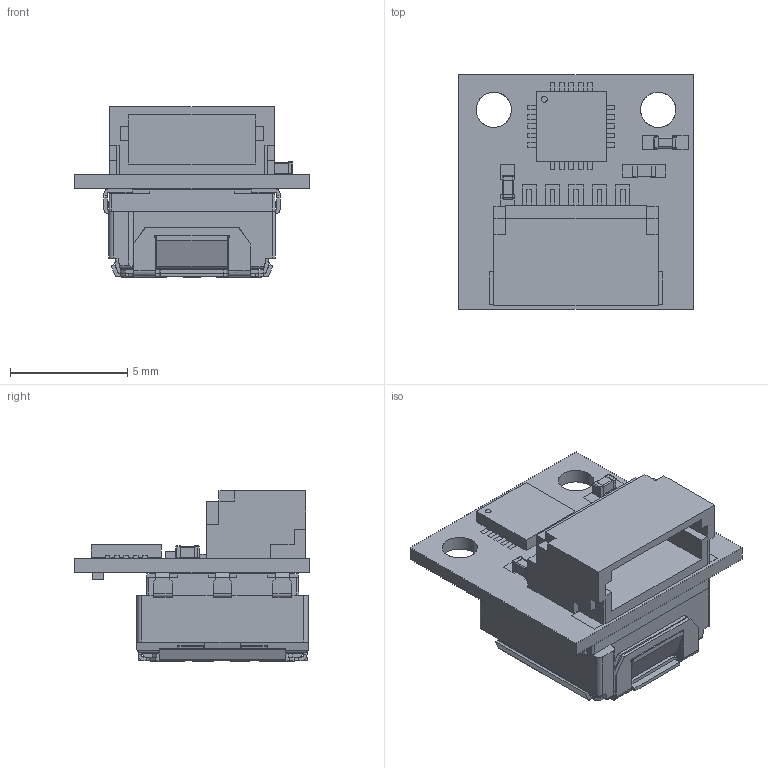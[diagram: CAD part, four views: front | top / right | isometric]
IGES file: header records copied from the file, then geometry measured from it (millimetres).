
Global section: file name: Filename.iges; native system: Open CASCADE 7.4; preprocessor: Open CASCADE IGES processor 7.4; date: 20200729.111811; units: millimetre
Bounding box: 10 x 10 x 7.26 mm (x, y, z)
Surface area: 1493.7 mm2 (no closed solid volume)
Topology: 0 solids, 0 shells, 3220 faces, 18296 edges, 20028 vertices
Faces by surface type: plane 2872, revolution 348
